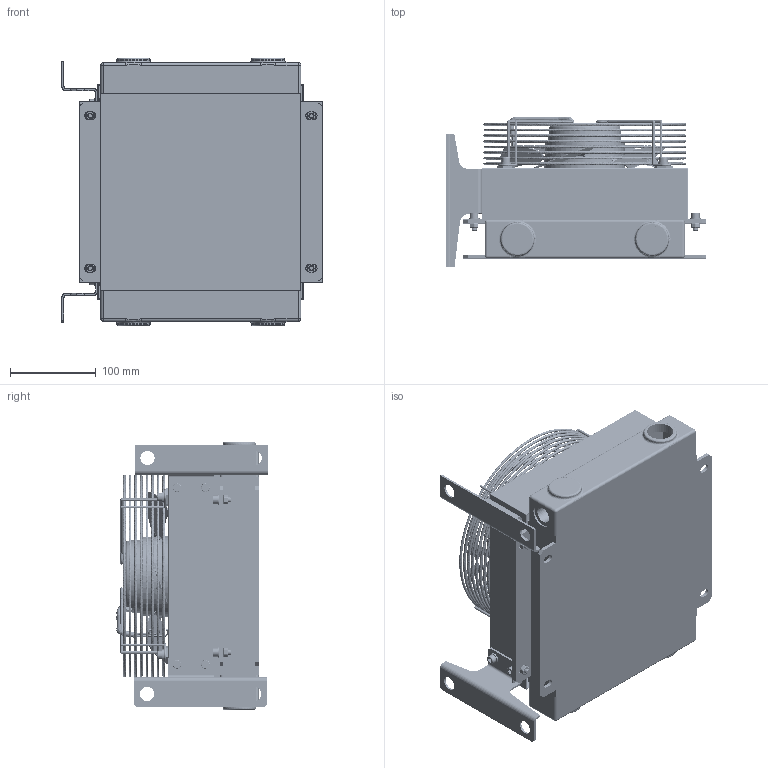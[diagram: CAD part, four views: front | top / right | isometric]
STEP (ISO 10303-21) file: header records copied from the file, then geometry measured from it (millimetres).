
FILE_DESCRIPTION(('STEP AP203'),'2;1');
FILE_NAME('SS151400A-P.stp','2014-10-29T13:32:47',(''),(''),'2012.1.115','THINKDESIGN','');
FILE_SCHEMA(('CONFIG_CONTROL_DESIGN'));
Bounding box: 303.5 x 176.18 x 312 mm (x, y, z)
Volume: 2968430.6 mm3; surface area: 733985.2 mm2
Topology: 50 solids, 50 shells, 1596 faces, 5354 edges, 4414 vertices
Faces by surface type: bspline 760, plane 501, cylinder 335
Full cylindrical faces by diameter (mm): 5 x8, 6 x12, 6.5 x20, 6.75 x4, 7 x4, 8 x4, 10 x12, 12.5 x12, 16.5 x4, 19 x2, 28 x2, 30.5 x2, 39 x4, 220 x1
Entity records: 81504 total; most frequent: CARTESIAN_POINT 48620, DIRECTION 5856, ORIENTED_EDGE 4422, COMPOSITE_CURVE_SEGMENT 3050, VECTOR 2424, LINE 2424, EDGE_CURVE 2211, AXIS2_PLACEMENT_3D 1716
